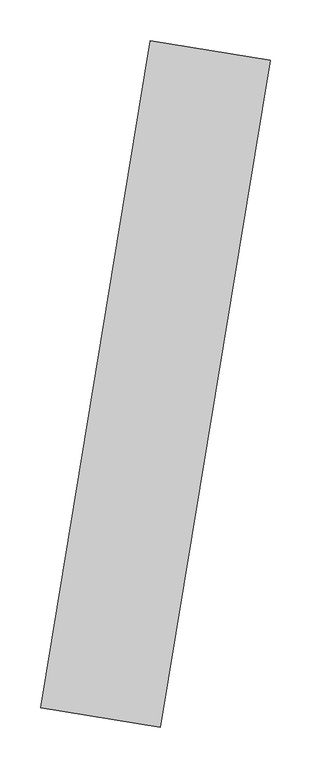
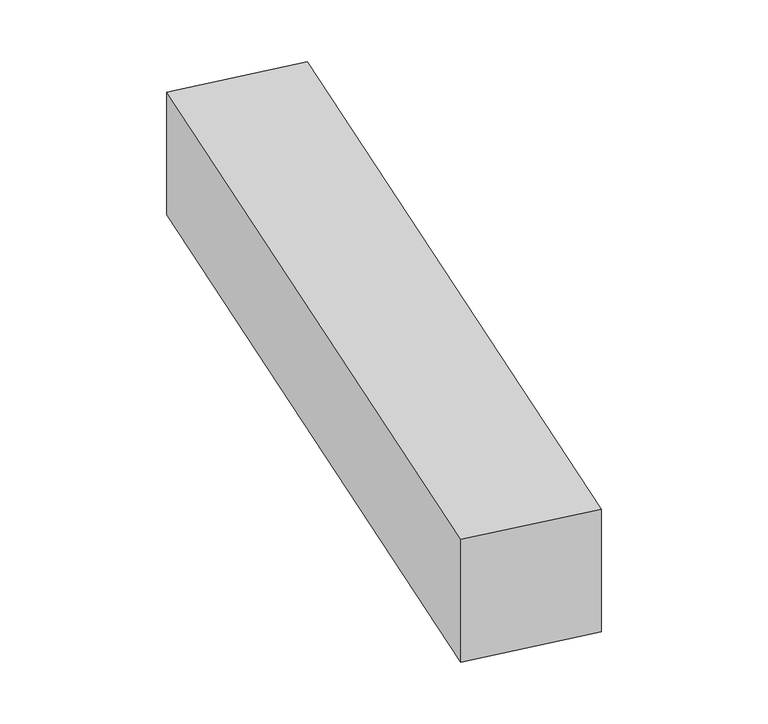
"""IFC4 building model written with IfcOpenShell, lengths in millimetres: proxy geometry, Брус 9 : Брус 2."""

from ifc_helpers import new_model, si_unit, frame, origin, place, context, project, spatial, polyline, outline, extrude, source, transform, mapped, element, save


def generic_models_7fd432a6(model_context):
    return source(origin(), model_context, "Body", "SweptSolid", [
        extrude(outline(polyline([(9146.5023682, 11126.2470005), (9281.9639734, 11949.9999997), (9429.9760535, 11925.6602353), (9294.5144484, 11101.9072361), (9146.5023682, 11126.2470005)])), frame((0.0, 0.0, -5.0), z_axis=(0.0, 0.0, 1.0), x_axis=(1.0, 0.0, 0.0)), (0.0, 0.0, 1.0), 150.0),
    ])


if __name__ == "__main__":
    model = new_model("IFC4")
    model_context = context("Model", 3, world=origin())
    ifc_project = project(units=[si_unit("LENGTHUNIT", "METRE", prefix="MILLI")], contexts=[model_context])
    site = spatial("IfcSite", under=ifc_project)
    building = spatial("IfcBuilding", under=site)
    placement = place(None, origin())
    generic_models_shape = generic_models_7fd432a6(model_context)
    element("IfcBuildingElementProxy", 1, Name="Брус 9 : Брус 2", ObjectType="Брус 9 : Брус 2", at=placement, inside=building, context=model_context, shape_type="MappedRepresentation", body=[
        mapped(generic_models_shape, transform((0.0, 0.0, 0.0), x_axis=(1.0, 0.0, 0.0), y_axis=(0.0, 1.0, 0.0), z_axis=(0.0, 0.0, 1.0))),
    ])
    save(model, "model.ifc")
